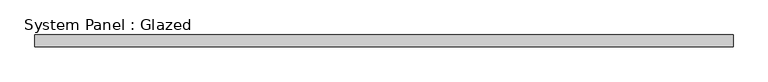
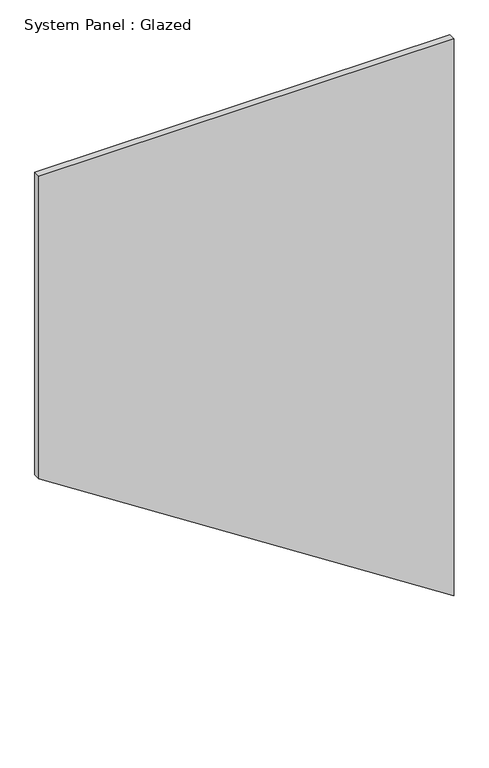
"""IFC4 building model written with IfcOpenShell, lengths in millimetres: plate geometry, System Panel : Glazed."""

from ifc_helpers import new_model, si_unit, frame, origin, place, context, project, spatial, polyline, outline, extrude, source, transform, mapped, element, save


def system_panel_glazed_b46633c3(model_context):
    return source(origin(), model_context, "Body", "SweptSolid", [
        extrude(outline(polyline([(952.4450444, -735.8695652), (0.0, 735.8695652), (2085.2648563, 735.8695652), (2085.2648563, -735.8695652), (952.4450444, -735.8695652)])), frame((0.0, 24.5, 0.0), z_axis=(0.0, 1.0, 0.0), x_axis=(0.0, 0.0, 1.0)), (0.0, 0.0, 1.0), 25.0),
    ])


if __name__ == "__main__":
    model = new_model("IFC4")
    model_context = context("Model", 3, world=origin())
    ifc_project = project(units=[si_unit("LENGTHUNIT", "METRE", prefix="MILLI")], contexts=[model_context])
    site = spatial("IfcSite", under=ifc_project)
    building = spatial("IfcBuilding", under=site)
    placement = place(None, origin())
    system_panel_glazed_shape = system_panel_glazed_b46633c3(model_context)
    element("IfcPlate", 1, ObjectType="System Panel : Glazed", at=placement, inside=building, context=model_context, shape_type="MappedRepresentation", body=[
        mapped(system_panel_glazed_shape, transform((0.0, 0.0, 0.0), x_axis=(1.0, 0.0, 0.0), y_axis=(0.0, 1.0, 0.0), z_axis=(0.0, 0.0, 1.0))),
    ])
    save(model, "model.ifc")
